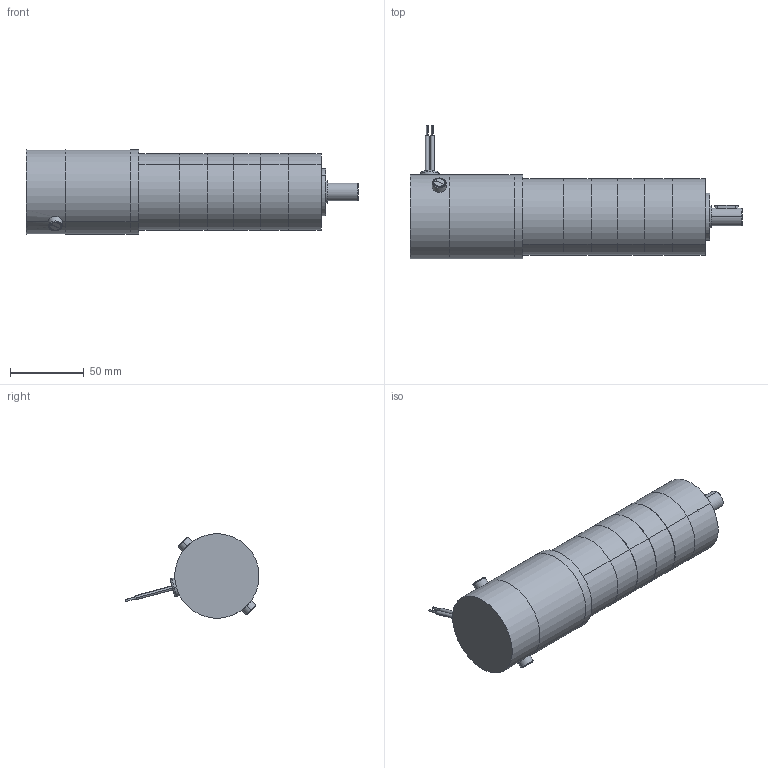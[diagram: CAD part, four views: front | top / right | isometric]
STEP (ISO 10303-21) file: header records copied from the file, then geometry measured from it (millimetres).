
FILE_DESCRIPTION (( 'STEP AP203' ), '1' );
FILE_NAME ('d22301gp4.step', '2018-12-07T19:13:44', ( '' ), ( '' ), 'SwSTEP 2.0', 'SolidWorks 2017', '' );
FILE_SCHEMA (( 'CONFIG_CONTROL_DESIGN' ));
Length unit declared in the file: inch
Products named in the file (1): d22301gp4
Bounding box: 224.95 x 90.76 x 56.93 mm (x, y, z)
Volume: 459942.5 mm3; surface area: 79563.1 mm2
Topology: 17 solids, 17 shells, 342 faces, 725 edges, 446 vertices
Faces by surface type: cylinder 142, plane 133, cone 57, torus 6, sphere 4
Entity records: 9441 total; most frequent: CARTESIAN_POINT 1758, DIRECTION 1746, ORIENTED_EDGE 1418, EDGE_CURVE 709, AXIS2_PLACEMENT_3D 704, VERTEX_POINT 446, EDGE_LOOP 407, CIRCLE 361
